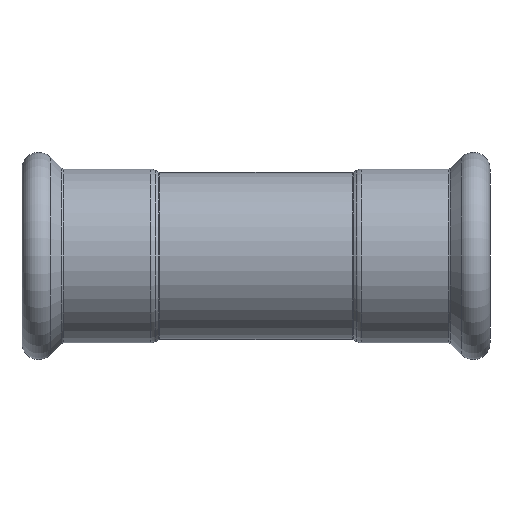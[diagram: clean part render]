
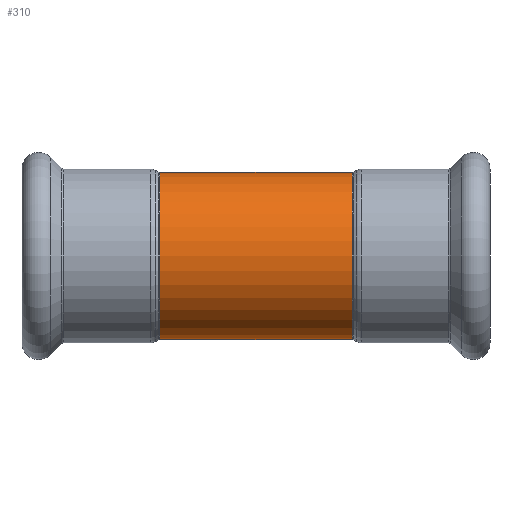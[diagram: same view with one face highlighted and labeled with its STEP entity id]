
A CAD part, front view. The second image highlights one B-rep face of the part: STEP entity #310.
In plain terms, the highlighted cylindrical face has radius 15 mm (diameter 30 mm), a partial arc.
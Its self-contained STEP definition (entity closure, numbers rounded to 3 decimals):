
#63 = ORIENTED_EDGE ( 'NONE', *, *, #140, .F. ) ;
#92 = VERTEX_POINT ( 'NONE', #708 ) ;
#140 = EDGE_CURVE ( 'NONE', #1238, #2850, #154, .T. ) ;
#154 = LINE ( 'NONE', #1368, #313 ) ;
#296 = DIRECTION ( 'NONE',  ( 0., 0., 1. ) ) ;
#310 = ADVANCED_FACE ( 'NONE', ( #3642 ), #1131, .T. ) ;
#313 = VECTOR ( 'NONE', #692, 1000. ) ;
#692 = DIRECTION ( 'NONE',  ( -1., 0., 0. ) ) ;
#708 = CARTESIAN_POINT ( 'NONE',  ( 17.248, 0., 15. ) ) ;
#730 = EDGE_CURVE ( 'NONE', #92, #4118, #2737, .T. ) ;
#830 = EDGE_LOOP ( 'NONE', ( #63, #1851, #3475, #3026 ) ) ;
#1115 = AXIS2_PLACEMENT_3D ( 'NONE', #2938, #2970, #296 ) ;
#1131 = CYLINDRICAL_SURFACE ( 'NONE', #2415, 15. ) ;
#1206 = EDGE_CURVE ( 'NONE', #1238, #92, #3213, .T. ) ;
#1236 = DIRECTION ( 'NONE',  ( -1., 0., 0. ) ) ;
#1238 = VERTEX_POINT ( 'NONE', #3606 ) ;
#1326 = EDGE_CURVE ( 'NONE', #2850, #4118, #2557, .T. ) ;
#1368 = CARTESIAN_POINT ( 'NONE',  ( 27.146, 0., -15. ) ) ;
#1415 = DIRECTION ( 'NONE',  ( -1., 0., 0. ) ) ;
#1641 = DIRECTION ( 'NONE',  ( -1., 0., 0. ) ) ;
#1681 = CARTESIAN_POINT ( 'NONE',  ( 27.146, 0., 15. ) ) ;
#1851 = ORIENTED_EDGE ( 'NONE', *, *, #1206, .T. ) ;
#2166 = CARTESIAN_POINT ( 'NONE',  ( 17.248, 0., 0. ) ) ;
#2415 = AXIS2_PLACEMENT_3D ( 'NONE', #3032, #1415, #3322 ) ;
#2421 = CARTESIAN_POINT ( 'NONE',  ( -17.248, 0., 15. ) ) ;
#2557 = CIRCLE ( 'NONE', #1115, 15. ) ;
#2737 = LINE ( 'NONE', #1681, #3379 ) ;
#2850 = VERTEX_POINT ( 'NONE', #3981 ) ;
#2938 = CARTESIAN_POINT ( 'NONE',  ( -17.248, 0., 0. ) ) ;
#2970 = DIRECTION ( 'NONE',  ( -1., 0., 0. ) ) ;
#3026 = ORIENTED_EDGE ( 'NONE', *, *, #1326, .F. ) ;
#3032 = CARTESIAN_POINT ( 'NONE',  ( 27.146, 0., 0. ) ) ;
#3163 = DIRECTION ( 'NONE',  ( 0., 0., 1. ) ) ;
#3213 = CIRCLE ( 'NONE', #3383, 15. ) ;
#3322 = DIRECTION ( 'NONE',  ( 0., 0., 1. ) ) ;
#3379 = VECTOR ( 'NONE', #1641, 1000. ) ;
#3383 = AXIS2_PLACEMENT_3D ( 'NONE', #2166, #1236, #3163 ) ;
#3475 = ORIENTED_EDGE ( 'NONE', *, *, #730, .T. ) ;
#3606 = CARTESIAN_POINT ( 'NONE',  ( 17.248, 0., -15. ) ) ;
#3642 = FACE_OUTER_BOUND ( 'NONE', #830, .T. ) ;
#3981 = CARTESIAN_POINT ( 'NONE',  ( -17.248, 0., -15. ) ) ;
#4118 = VERTEX_POINT ( 'NONE', #2421 ) ;
